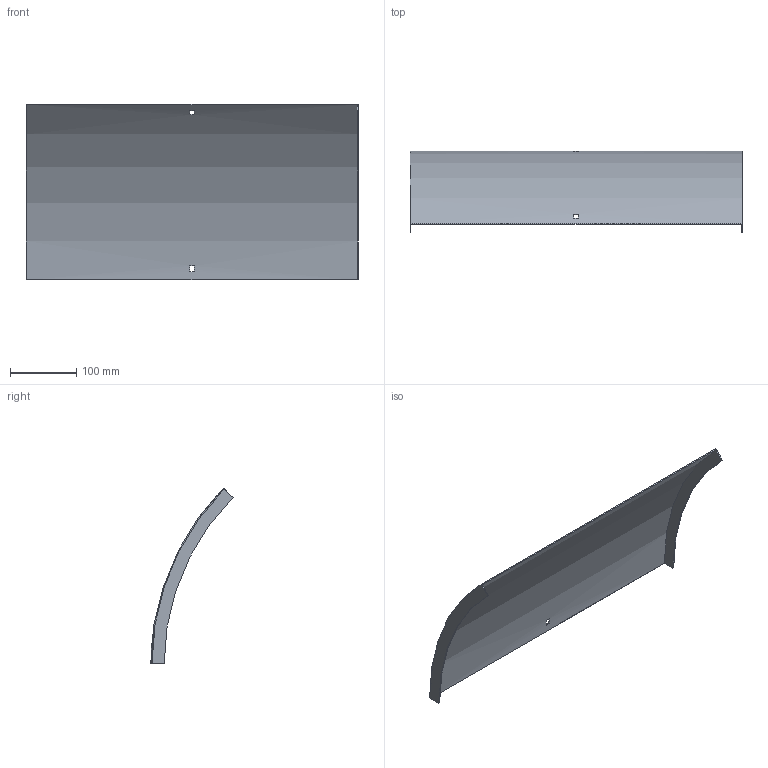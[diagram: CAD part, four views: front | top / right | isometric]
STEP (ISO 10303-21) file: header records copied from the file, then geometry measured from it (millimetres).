
FILE_DESCRIPTION (( 'STEP AP214' ), '1' );
FILE_NAME ('B2_34N3C500.step', '2025-02-21T10:36:01', ( '' ), ( '' ), 'SwSTEP 2.0', 'SolidWorks 2023', '' );
FILE_SCHEMA (( 'AUTOMOTIVE_DESIGN' ));
Length unit declared in the file: millimetre
Products named in the file (1): B2_34N3C500
Bounding box: 503 x 124.42 x 266.23 mm (x, y, z)
Volume: 238430.3 mm3; surface area: 320461.8 mm2
Topology: 1 solids, 1 shells, 18 faces, 48 edges, 32 vertices
Faces by surface type: plane 14, cylinder 4
Entity records: 599 total; most frequent: DIRECTION 102, CARTESIAN_POINT 99, ORIENTED_EDGE 96, EDGE_CURVE 48, AXIS2_PLACEMENT_3D 35, LINE 32, VECTOR 32, VERTEX_POINT 32
